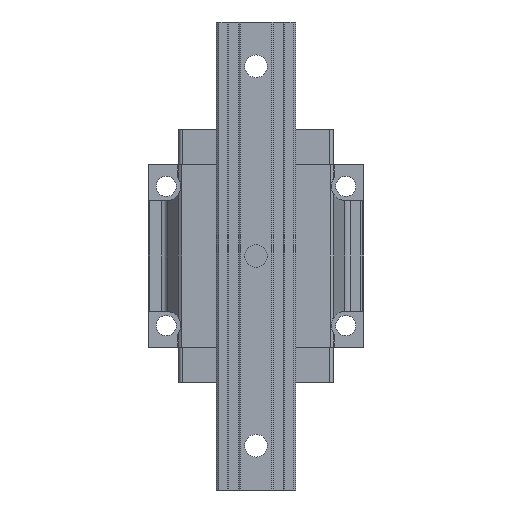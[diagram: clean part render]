
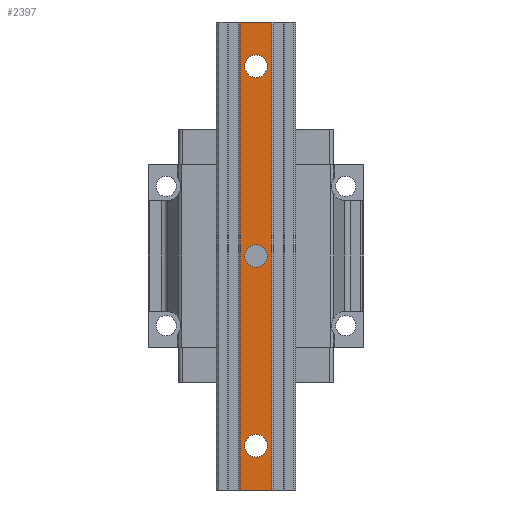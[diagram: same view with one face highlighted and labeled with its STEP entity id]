
A CAD part, front view. The second image highlights one B-rep face of the part: STEP entity #2397.
In plain terms, the highlighted planar face has unit normal (0, -1, 0).
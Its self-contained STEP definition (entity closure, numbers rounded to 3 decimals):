
#3 = CIRCLE ( 'NONE', #31790, 9. ) ;
#214 = EDGE_LOOP ( 'NONE', ( #3691, #8940 ) ) ;
#259 = CARTESIAN_POINT ( 'NONE',  ( 12.5, -53., -185. ) ) ;
#489 = VERTEX_POINT ( 'NONE', #24324 ) ;
#2356 = EDGE_CURVE ( 'NONE', #27458, #35447, #5778, .T. ) ;
#2397 = ADVANCED_FACE ( 'NONE', ( #34074, #5842, #28516, #17232 ), #34615, .T. ) ;
#2855 = DIRECTION ( 'NONE',  ( 0., 1., 0. ) ) ;
#2859 = ORIENTED_EDGE ( 'NONE', *, *, #17838, .T. ) ;
#3051 = CARTESIAN_POINT ( 'NONE',  ( 0., -53., 150. ) ) ;
#3111 = EDGE_CURVE ( 'NONE', #15860, #14378, #32171, .T. ) ;
#3691 = ORIENTED_EDGE ( 'NONE', *, *, #23644, .T. ) ;
#3973 = EDGE_LOOP ( 'NONE', ( #2859, #7131 ) ) ;
#4344 = AXIS2_PLACEMENT_3D ( 'NONE', #3051, #31427, #25702 ) ;
#4792 = EDGE_CURVE ( 'NONE', #28888, #489, #23104, .T. ) ;
#5778 = CIRCLE ( 'NONE', #15342, 9. ) ;
#5842 = FACE_BOUND ( 'NONE', #3973, .T. ) ;
#5942 = EDGE_CURVE ( 'NONE', #15708, #35455, #7344, .T. ) ;
#6023 = DIRECTION ( 'NONE',  ( 0., 1., 0. ) ) ;
#6370 = CARTESIAN_POINT ( 'NONE',  ( 0., -53., -141. ) ) ;
#7131 = ORIENTED_EDGE ( 'NONE', *, *, #25076, .T. ) ;
#7269 = VERTEX_POINT ( 'NONE', #24432 ) ;
#7344 = LINE ( 'NONE', #24750, #28109 ) ;
#7698 = VECTOR ( 'NONE', #20248, 1000. ) ;
#8176 = DIRECTION ( 'NONE',  ( 1., 0., 0. ) ) ;
#8518 = CARTESIAN_POINT ( 'NONE',  ( 0., -53., 185. ) ) ;
#8940 = ORIENTED_EDGE ( 'NONE', *, *, #3111, .T. ) ;
#9020 = CARTESIAN_POINT ( 'NONE',  ( -12.5, -53., -185. ) ) ;
#9127 = ORIENTED_EDGE ( 'NONE', *, *, #35451, .T. ) ;
#9933 = VERTEX_POINT ( 'NONE', #17799 ) ;
#11283 = DIRECTION ( 'NONE',  ( 0., 0., 1. ) ) ;
#11438 = CARTESIAN_POINT ( 'NONE',  ( 0., -53., 0. ) ) ;
#13419 = ORIENTED_EDGE ( 'NONE', *, *, #24153, .T. ) ;
#13627 = ORIENTED_EDGE ( 'NONE', *, *, #2356, .T. ) ;
#14274 = LINE ( 'NONE', #34475, #7698 ) ;
#14378 = VERTEX_POINT ( 'NONE', #34032 ) ;
#15272 = DIRECTION ( 'NONE',  ( 0., 1., 0. ) ) ;
#15282 = ORIENTED_EDGE ( 'NONE', *, *, #35275, .T. ) ;
#15342 = AXIS2_PLACEMENT_3D ( 'NONE', #31405, #31579, #11283 ) ;
#15708 = VERTEX_POINT ( 'NONE', #35099 ) ;
#15860 = VERTEX_POINT ( 'NONE', #27828 ) ;
#16266 = CIRCLE ( 'NONE', #36752, 9. ) ;
#16658 = CARTESIAN_POINT ( 'NONE',  ( -12.5, -53., 185. ) ) ;
#17232 = FACE_OUTER_BOUND ( 'NONE', #27332, .T. ) ;
#17241 = CARTESIAN_POINT ( 'NONE',  ( 0., -53., 0. ) ) ;
#17799 = CARTESIAN_POINT ( 'NONE',  ( 0., -53., 159. ) ) ;
#17838 = EDGE_CURVE ( 'NONE', #9933, #7269, #20449, .T. ) ;
#19726 = CIRCLE ( 'NONE', #34829, 9. ) ;
#20248 = DIRECTION ( 'NONE',  ( 0., 0., -1. ) ) ;
#20407 = EDGE_LOOP ( 'NONE', ( #13627, #15282 ) ) ;
#20449 = CIRCLE ( 'NONE', #4344, 9. ) ;
#21918 = AXIS2_PLACEMENT_3D ( 'NONE', #9020, #29668, #31756 ) ;
#22544 = DIRECTION ( 'NONE',  ( 0., 0., 1. ) ) ;
#23044 = DIRECTION ( 'NONE',  ( 0., 0., 1. ) ) ;
#23086 = LINE ( 'NONE', #34484, #25281 ) ;
#23104 = LINE ( 'NONE', #8518, #25181 ) ;
#23256 = CARTESIAN_POINT ( 'NONE',  ( 0., -53., -159. ) ) ;
#23644 = EDGE_CURVE ( 'NONE', #14378, #15860, #3, .T. ) ;
#24153 = EDGE_CURVE ( 'NONE', #28888, #15708, #14274, .T. ) ;
#24324 = CARTESIAN_POINT ( 'NONE',  ( 12.5, -53., 185. ) ) ;
#24432 = CARTESIAN_POINT ( 'NONE',  ( 0., -53., 141. ) ) ;
#24750 = CARTESIAN_POINT ( 'NONE',  ( 0., -53., -185. ) ) ;
#25076 = EDGE_CURVE ( 'NONE', #7269, #9933, #19726, .T. ) ;
#25181 = VECTOR ( 'NONE', #8176, 1000. ) ;
#25281 = VECTOR ( 'NONE', #22544, 1000. ) ;
#25512 = CARTESIAN_POINT ( 'NONE',  ( 0., -53., 150. ) ) ;
#25702 = DIRECTION ( 'NONE',  ( 0., 0., 1. ) ) ;
#26730 = DIRECTION ( 'NONE',  ( 0., 0., 1. ) ) ;
#27332 = EDGE_LOOP ( 'NONE', ( #9127, #31574, #13419, #27460 ) ) ;
#27458 = VERTEX_POINT ( 'NONE', #6370 ) ;
#27460 = ORIENTED_EDGE ( 'NONE', *, *, #5942, .T. ) ;
#27828 = CARTESIAN_POINT ( 'NONE',  ( 0., -53., -9. ) ) ;
#28109 = VECTOR ( 'NONE', #30256, 1000. ) ;
#28516 = FACE_BOUND ( 'NONE', #214, .T. ) ;
#28888 = VERTEX_POINT ( 'NONE', #16658 ) ;
#29668 = DIRECTION ( 'NONE',  ( 0., -1., 0. ) ) ;
#30256 = DIRECTION ( 'NONE',  ( 1., 0., 0. ) ) ;
#31405 = CARTESIAN_POINT ( 'NONE',  ( 0., -53., -150. ) ) ;
#31427 = DIRECTION ( 'NONE',  ( 0., 1., 0. ) ) ;
#31574 = ORIENTED_EDGE ( 'NONE', *, *, #4792, .F. ) ;
#31579 = DIRECTION ( 'NONE',  ( 0., 1., 0. ) ) ;
#31756 = DIRECTION ( 'NONE',  ( 0., 0., -1. ) ) ;
#31790 = AXIS2_PLACEMENT_3D ( 'NONE', #11438, #32305, #31935 ) ;
#31935 = DIRECTION ( 'NONE',  ( 0., 0., 1. ) ) ;
#32171 = CIRCLE ( 'NONE', #32796, 9. ) ;
#32305 = DIRECTION ( 'NONE',  ( 0., 1., 0. ) ) ;
#32796 = AXIS2_PLACEMENT_3D ( 'NONE', #17241, #6023, #34081 ) ;
#32805 = CARTESIAN_POINT ( 'NONE',  ( 0., -53., -150. ) ) ;
#34032 = CARTESIAN_POINT ( 'NONE',  ( 0., -53., 9. ) ) ;
#34074 = FACE_BOUND ( 'NONE', #20407, .T. ) ;
#34081 = DIRECTION ( 'NONE',  ( 0., 0., 1. ) ) ;
#34475 = CARTESIAN_POINT ( 'NONE',  ( -12.5, -53., -185. ) ) ;
#34484 = CARTESIAN_POINT ( 'NONE',  ( 12.5, -53., -185. ) ) ;
#34615 = PLANE ( 'NONE',  #21918 ) ;
#34829 = AXIS2_PLACEMENT_3D ( 'NONE', #25512, #2855, #23044 ) ;
#35099 = CARTESIAN_POINT ( 'NONE',  ( -12.5, -53., -185. ) ) ;
#35275 = EDGE_CURVE ( 'NONE', #35447, #27458, #16266, .T. ) ;
#35447 = VERTEX_POINT ( 'NONE', #23256 ) ;
#35451 = EDGE_CURVE ( 'NONE', #35455, #489, #23086, .T. ) ;
#35455 = VERTEX_POINT ( 'NONE', #259 ) ;
#36752 = AXIS2_PLACEMENT_3D ( 'NONE', #32805, #15272, #26730 ) ;
